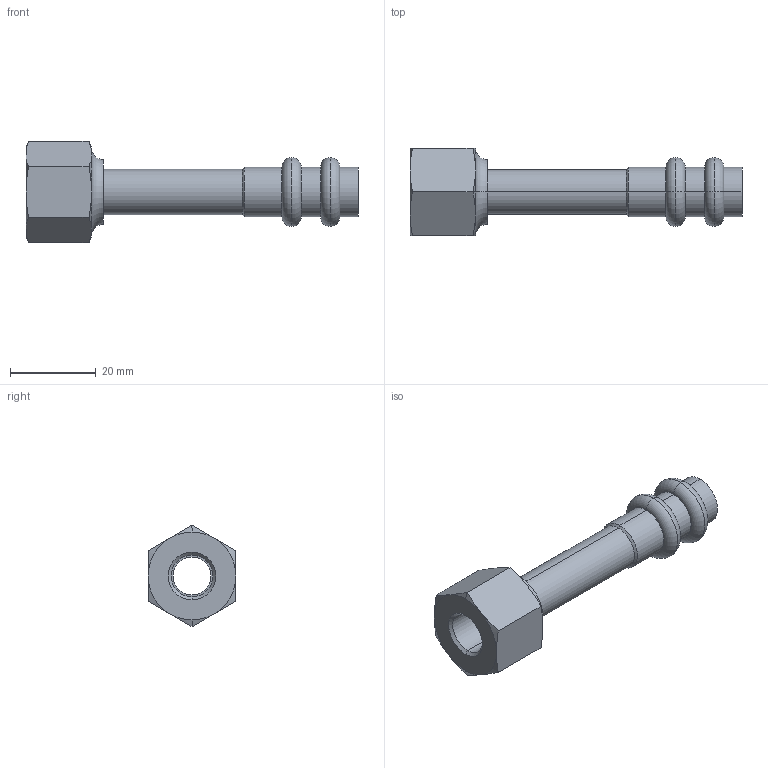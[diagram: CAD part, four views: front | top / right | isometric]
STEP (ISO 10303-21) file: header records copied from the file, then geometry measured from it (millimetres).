
FILE_DESCRIPTION(('starvars output'),'1');
FILE_NAME('cv20240422105134000011673.stp','10:51:34 2024/04/22',('Thomas Industrial Network Germany GmbH'),(' '),'Spatial InterOp 3D',' ',' ');
FILE_SCHEMA(('AUTOMOTIVE_DESIGN { 1 0 10303 214 3 1 1 }'));
Length unit declared in the file: millimetre
Products named in the file (1): 1
Bounding box: 77.5 x 20.5 x 23.67 mm (x, y, z)
Volume: 6782.6 mm3; surface area: 6715.4 mm2
Topology: 1 solids, 1 shells, 78 faces, 160 edges, 94 vertices
Faces by surface type: cone 24, torus 18, cylinder 18, plane 18
Entity records: 2736 total; most frequent: CARTESIAN_POINT 429, DIRECTION 394, ORIENTED_EDGE 320, AXIS2_PLACEMENT_3D 179, EDGE_CURVE 160, CIRCLE 100, VERTEX_POINT 94, EDGE_LOOP 90
